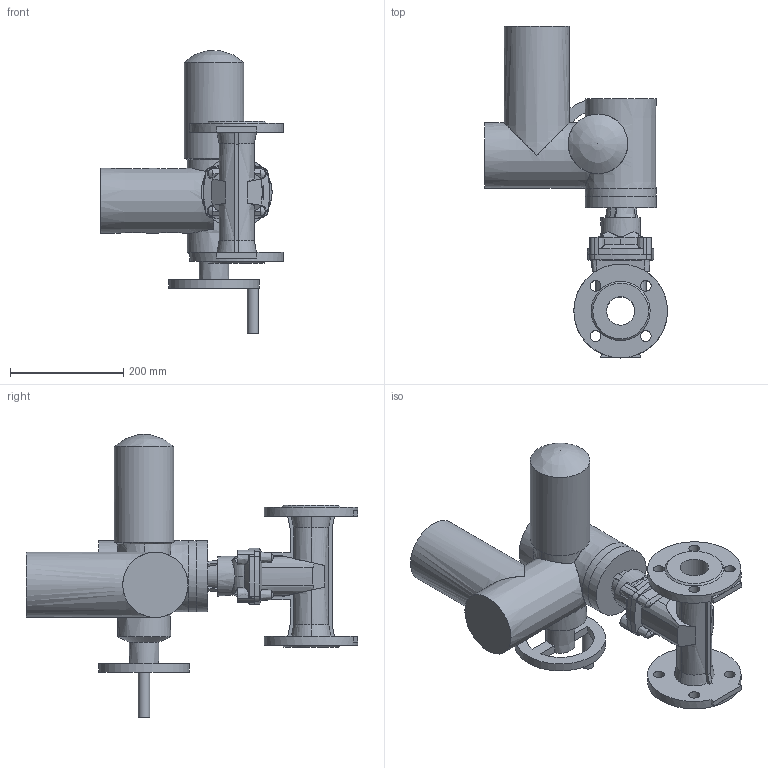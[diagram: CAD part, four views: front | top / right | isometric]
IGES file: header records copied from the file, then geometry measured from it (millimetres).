
Start section: SolidWorks IGES file using analytic representation for surfaces
Global section: file name: \\avksan2\techshare\PBM outline export from Enovia\O_15_70_DN050_X1X_SA07.6_AA0.igs; native system: SolidWorks 2012; preprocessor: SolidWorks 2012; author: pbm; date: 170320.134303; units: inch
Bounding box: 322.5 x 585 x 499 mm (x, y, z)
Surface area: 594769.2 mm2 (no closed solid volume)
Topology: 0 solids, 0 shells, 259 faces, 1505 edges, 1465 vertices
Faces by surface type: revolution 138, bspline 121
